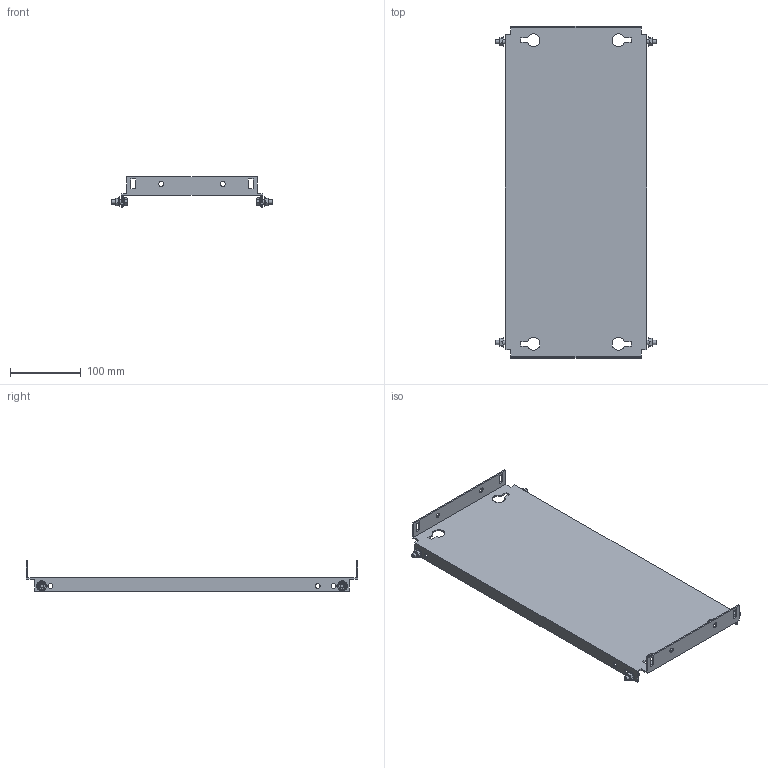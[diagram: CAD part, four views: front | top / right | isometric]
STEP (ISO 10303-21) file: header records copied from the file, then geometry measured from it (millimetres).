
FILE_DESCRIPTION(('Open CASCADE Model'),'2;1');
FILE_NAME('Open CASCADE Shape Model','2025-02-20T13:24:45',('Author'),( 'Open CASCADE'),'Open CASCADE STEP processor 7.8','Open CASCADE 7.8' ,'Unknown');
FILE_SCHEMA(('AUTOMOTIVE_DESIGN { 1 0 10303 214 1 1 1 1 }'));
Length unit declared in the file: millimetre
Products named in the file (4): Compound1; Solid1; Solid2; Solid3
Assembly tree (9 placements, depth 2):
  Compound1
    Solid1
    Solid2  x4
    Solid3  x4
Bounding box: 228 x 469 x 43 mm (x, y, z)
Volume: 236749.8 mm3; surface area: 240339.8 mm2
Topology: 9 solids, 9 shells, 308 faces, 753 edges, 467 vertices
Faces by surface type: plane 150, cone 68, bspline 48, cylinder 30, torus 12
Full cylindrical faces by diameter (mm): 5 x4, 6 x8, 7 x14
Entity records: 4930 total; most frequent: CARTESIAN_POINT 1377, ORIENTED_EDGE 756, DIRECTION 642, EDGE_CURVE 378, VERTEX_POINT 245, LINE 216, VECTOR 216, AXIS2_PLACEMENT_3D 213
